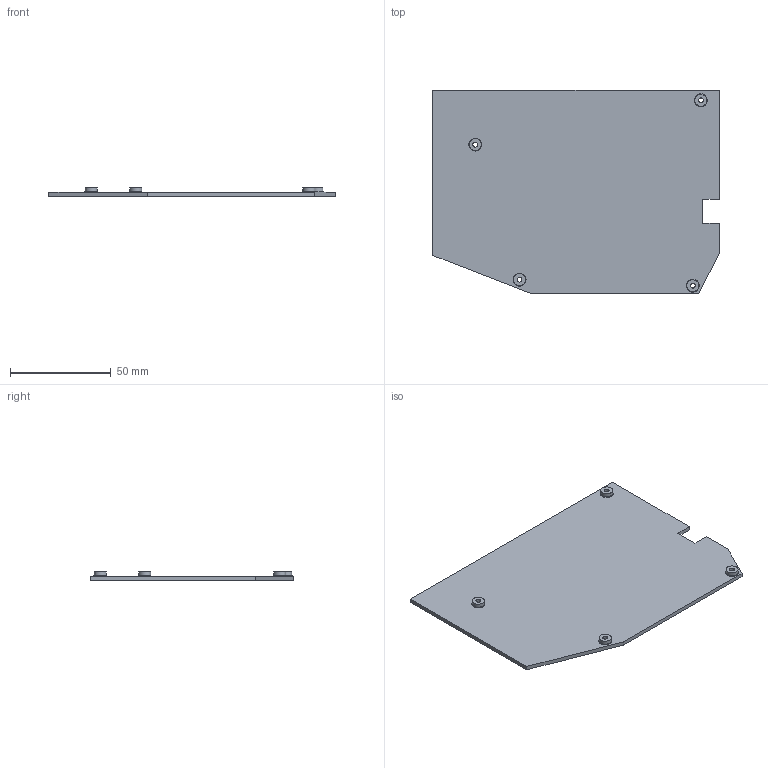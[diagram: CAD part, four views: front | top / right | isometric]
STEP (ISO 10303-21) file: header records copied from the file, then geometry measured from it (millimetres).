
FILE_DESCRIPTION(('Open CASCADE Model'),'2;1');
FILE_NAME('Open CASCADE Shape Model','2023-05-06T22:40:36',('Author'),( 'Open CASCADE'),'Open CASCADE STEP processor 7.4','Open CASCADE 7.4' ,'Unknown');
FILE_SCHEMA(('AUTOMOTIVE_DESIGN { 1 0 10303 214 1 1 1 1 }'));
Length unit declared in the file: millimetre
Products named in the file (1): Open CASCADE STEP translator 7.4 52
Bounding box: 142 x 101 x 4 mm (x, y, z)
Volume: 27424.8 mm3; surface area: 28596.7 mm2
Topology: 1 solids, 1 shells, 36 faces, 74 edges, 48 vertices
Faces by surface type: plane 20, cylinder 12, torus 4
Full cylindrical faces by diameter (mm): 2.4 x4, 5 x4, 6 x4
Entity records: 1952 total; most frequent: CARTESIAN_POINT 373, DIRECTION 302, ORIENTED_EDGE 148, LINE 148, VECTOR 148, PCURVE 148, DEFINITIONAL_REPRESENTATION 148, EDGE_CURVE 74
